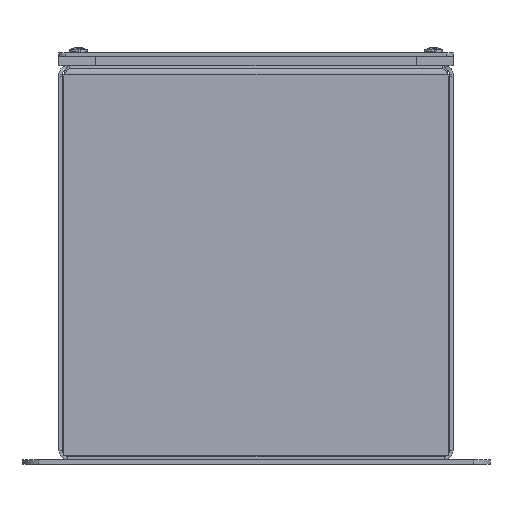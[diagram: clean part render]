
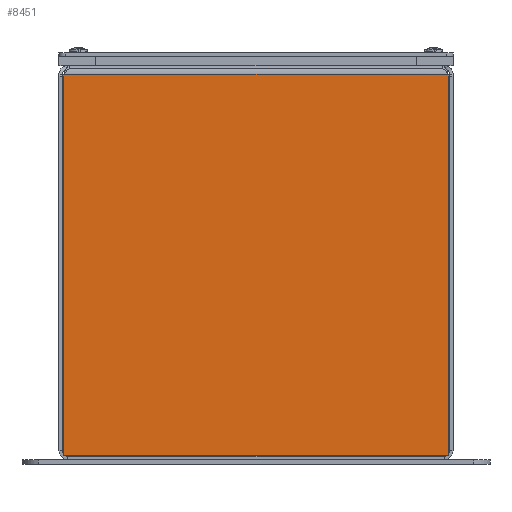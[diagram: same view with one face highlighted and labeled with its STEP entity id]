
A CAD part, left-side view. The second image highlights one B-rep face of the part: STEP entity #8451.
In plain terms, the highlighted planar face has unit normal (-1, 0, 0) as drawn and (0, 1, 0) by its records, which use the part's own axes.
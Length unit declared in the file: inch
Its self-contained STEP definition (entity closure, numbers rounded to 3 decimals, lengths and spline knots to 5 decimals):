
#55 = CARTESIAN_POINT ( 'NONE',  ( -7.91686, 0., 3.91686 ) ) ;
#323 = EDGE_LOOP ( 'NONE', ( #5103, #7691, #3275, #9363, #10485, #4983 ) ) ;
#443 = DIRECTION ( 'NONE',  ( -0.931, 0., 0.364 ) ) ;
#663 = CARTESIAN_POINT ( 'NONE',  ( -0.179, 0., 3.90257 ) ) ;
#1251 = VECTOR ( 'NONE', #7513, 39.37008 ) ;
#1387 = FACE_OUTER_BOUND ( 'NONE', #323, .T. ) ;
#1417 = VERTEX_POINT ( 'NONE', #5659 ) ;
#1543 = LINE ( 'NONE', #3153, #1251 ) ;
#1669 = VERTEX_POINT ( 'NONE', #8403 ) ;
#1879 = VERTEX_POINT ( 'NONE', #4080 ) ;
#1964 = CARTESIAN_POINT ( 'NONE',  ( -0.21551, 0., 3.91686 ) ) ;
#2529 = DIRECTION ( 'NONE',  ( 0.931, 0., 0.364 ) ) ;
#2941 = CARTESIAN_POINT ( 'NONE',  ( -0.179, 0., 3.90257 ) ) ;
#3153 = CARTESIAN_POINT ( 'NONE',  ( -7.91686, 0., 3.91686 ) ) ;
#3275 = ORIENTED_EDGE ( 'NONE', *, *, #7066, .T. ) ;
#3375 = LINE ( 'NONE', #9277, #5737 ) ;
#3825 = VECTOR ( 'NONE', #7224, 39.37008 ) ;
#3959 = PLANE ( 'NONE',  #6701 ) ;
#4080 = CARTESIAN_POINT ( 'NONE',  ( -0.21551, 0., -3.91686 ) ) ;
#4751 = DIRECTION ( 'NONE',  ( 0., 0., -1. ) ) ;
#4842 = DIRECTION ( 'NONE',  ( 0., 1., 0. ) ) ;
#4983 = ORIENTED_EDGE ( 'NONE', *, *, #8150, .F. ) ;
#5103 = ORIENTED_EDGE ( 'NONE', *, *, #6211, .T. ) ;
#5169 = LINE ( 'NONE', #2941, #7191 ) ;
#5659 = CARTESIAN_POINT ( 'NONE',  ( -7.91686, 0., 3.91686 ) ) ;
#5737 = VECTOR ( 'NONE', #443, 39.37008 ) ;
#6037 = CARTESIAN_POINT ( 'NONE',  ( -7.91686, 0., -3.91686 ) ) ;
#6211 = EDGE_CURVE ( 'NONE', #1417, #11216, #10922, .T. ) ;
#6501 = EDGE_CURVE ( 'NONE', #7484, #11216, #3375, .T. ) ;
#6538 = VECTOR ( 'NONE', #2529, 39.37008 ) ;
#6701 = AXIS2_PLACEMENT_3D ( 'NONE', #9939, #4842, #10801 ) ;
#7066 = EDGE_CURVE ( 'NONE', #7484, #1669, #5169, .T. ) ;
#7191 = VECTOR ( 'NONE', #4751, 39.37008 ) ;
#7224 = DIRECTION ( 'NONE',  ( 1., 0., 0. ) ) ;
#7437 = VERTEX_POINT ( 'NONE', #6037 ) ;
#7484 = VERTEX_POINT ( 'NONE', #663 ) ;
#7487 = EDGE_CURVE ( 'NONE', #1879, #1669, #8767, .T. ) ;
#7513 = DIRECTION ( 'NONE',  ( 0., 0., -1. ) ) ;
#7691 = ORIENTED_EDGE ( 'NONE', *, *, #6501, .F. ) ;
#7786 = EDGE_CURVE ( 'NONE', #7437, #1879, #10344, .T. ) ;
#7903 = DIRECTION ( 'NONE',  ( 1., 0., 0. ) ) ;
#8110 = VECTOR ( 'NONE', #7903, 39.37008 ) ;
#8150 = EDGE_CURVE ( 'NONE', #1417, #7437, #1543, .T. ) ;
#8403 = CARTESIAN_POINT ( 'NONE',  ( -0.179, 0., -3.90257 ) ) ;
#8451 = ADVANCED_FACE ( 'NONE', ( #1387 ), #3959, .T. ) ;
#8767 = LINE ( 'NONE', #11095, #6538 ) ;
#9277 = CARTESIAN_POINT ( 'NONE',  ( -0.21551, 0., 3.91686 ) ) ;
#9363 = ORIENTED_EDGE ( 'NONE', *, *, #7487, .F. ) ;
#9939 = CARTESIAN_POINT ( 'NONE',  ( -7.91686, 0., 3.91686 ) ) ;
#10344 = LINE ( 'NONE', #10399, #8110 ) ;
#10399 = CARTESIAN_POINT ( 'NONE',  ( -7.91686, 0., -3.91686 ) ) ;
#10485 = ORIENTED_EDGE ( 'NONE', *, *, #7786, .F. ) ;
#10801 = DIRECTION ( 'NONE',  ( 0., 0., 1. ) ) ;
#10922 = LINE ( 'NONE', #55, #3825 ) ;
#11095 = CARTESIAN_POINT ( 'NONE',  ( -0.179, 0., -3.90257 ) ) ;
#11216 = VERTEX_POINT ( 'NONE', #1964 ) ;
